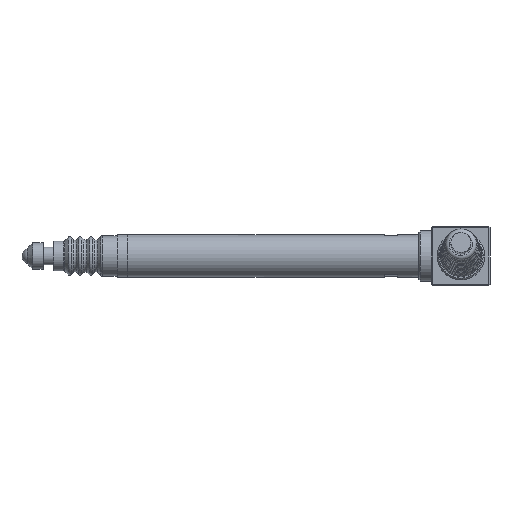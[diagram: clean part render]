
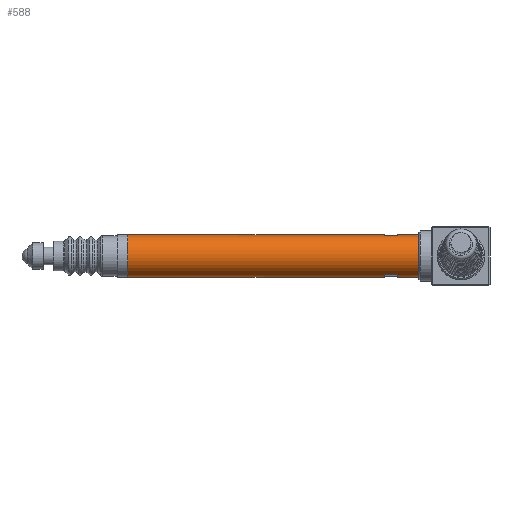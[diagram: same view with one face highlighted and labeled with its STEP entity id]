
A CAD part, front view. The second image highlights one B-rep face of the part: STEP entity #588.
In plain terms, the highlighted cylindrical face has radius 4 mm (diameter 8 mm), a full revolution.
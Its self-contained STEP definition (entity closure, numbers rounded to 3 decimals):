
#588=ADVANCED_FACE('',(#818,#819,#820,#821),#822,.T.);
#818=FACE_OUTER_BOUND('',#1056,.T.);
#819=FACE_OUTER_BOUND('',#1057,.T.);
#820=FACE_BOUND('',#1058,.T.);
#821=FACE_BOUND('',#1059,.T.);
#822=CYLINDRICAL_SURFACE('',#1060,4.0);
#1056=EDGE_LOOP('',(#1542));
#1057=EDGE_LOOP('',(#1543));
#1058=EDGE_LOOP('',(#1544,#1545,#1546,#1547));
#1059=EDGE_LOOP('',(#1548,#1549,#1550,#1551));
#1060=AXIS2_PLACEMENT_3D('',#1552,#1553,#1554);
#1542=ORIENTED_EDGE('',*,*,#1687,.T.);
#1543=ORIENTED_EDGE('',*,*,#1688,.F.);
#1544=ORIENTED_EDGE('',*,*,#1689,.T.);
#1545=ORIENTED_EDGE('',*,*,#1690,.T.);
#1546=ORIENTED_EDGE('',*,*,#1691,.T.);
#1547=ORIENTED_EDGE('',*,*,#1692,.T.);
#1548=ORIENTED_EDGE('',*,*,#1686,.F.);
#1549=ORIENTED_EDGE('',*,*,#1681,.F.);
#1550=ORIENTED_EDGE('',*,*,#1685,.F.);
#1551=ORIENTED_EDGE('',*,*,#1684,.F.);
#1552=CARTESIAN_POINT('',(0.0,28.5,0.0));
#1553=DIRECTION('',(0.0,-1.0,0.0));
#1554=DIRECTION('',(0.0,0.0,-1.0));
#1681=EDGE_CURVE('',#1873,#1874,#1875,.T.);
#1684=EDGE_CURVE('',#1878,#1877,#1880,.T.);
#1685=EDGE_CURVE('',#1877,#1873,#1881,.T.);
#1686=EDGE_CURVE('',#1874,#1878,#1882,.F.);
#1687=EDGE_CURVE('',#1883,#1883,#1884,.T.);
#1688=EDGE_CURVE('',#1885,#1885,#1886,.T.);
#1689=EDGE_CURVE('',#1887,#1888,#1889,.F.);
#1690=EDGE_CURVE('',#1888,#1890,#1891,.T.);
#1691=EDGE_CURVE('',#1890,#1892,#1893,.T.);
#1692=EDGE_CURVE('',#1892,#1887,#1894,.T.);
#1873=VERTEX_POINT('',#2123);
#1874=VERTEX_POINT('',#2124);
#1875=CIRCLE('',#2125,4.0);
#1877=VERTEX_POINT('',#2128);
#1878=VERTEX_POINT('',#2129);
#1880=CIRCLE('',#2132,4.0);
#1881=LINE('',#2133,#2134);
#1882=LINE('',#2135,#2136);
#1883=VERTEX_POINT('',#2137);
#1884=CIRCLE('',#2138,4.0);
#1885=VERTEX_POINT('',#2139);
#1886=CIRCLE('',#2140,4.0);
#1887=VERTEX_POINT('',#2141);
#1888=VERTEX_POINT('',#2142);
#1889=LINE('',#2143,#2144);
#1890=VERTEX_POINT('',#2145);
#1891=CIRCLE('',#2146,4.0);
#1892=VERTEX_POINT('',#2147);
#1893=LINE('',#2148,#2149);
#1894=CIRCLE('',#2150,4.0);
#2123=CARTESIAN_POINT('',(-1.392,20.0,3.75));
#2124=CARTESIAN_POINT('',(1.392,20.0,3.75));
#2125=AXIS2_PLACEMENT_3D('',#2362,#2363,#2364);
#2128=CARTESIAN_POINT('',(-1.392,22.5,3.75));
#2129=CARTESIAN_POINT('',(1.392,22.5,3.75));
#2132=AXIS2_PLACEMENT_3D('',#2367,#2368,#2369);
#2133=CARTESIAN_POINT('',(-1.392,28.5,3.75));
#2134=VECTOR('',#2370,1.0);
#2135=CARTESIAN_POINT('',(1.392,28.5,3.75));
#2136=VECTOR('',#2371,1.0);
#2137=CARTESIAN_POINT('',(0.0,-28.5,4.0));
#2138=AXIS2_PLACEMENT_3D('',#2372,#2373,#2374);
#2139=CARTESIAN_POINT('',(0.0,28.5,4.0));
#2140=AXIS2_PLACEMENT_3D('',#2375,#2376,#2377);
#2141=CARTESIAN_POINT('',(1.392,20.0,-3.75));
#2142=CARTESIAN_POINT('',(1.392,22.5,-3.75));
#2143=CARTESIAN_POINT('',(1.392,28.5,-3.75));
#2144=VECTOR('',#2378,1.0);
#2145=CARTESIAN_POINT('',(-1.392,22.5,-3.75));
#2146=AXIS2_PLACEMENT_3D('',#2379,#2380,#2381);
#2147=CARTESIAN_POINT('',(-1.392,20.0,-3.75));
#2148=CARTESIAN_POINT('',(-1.392,28.5,-3.75));
#2149=VECTOR('',#2382,1.0);
#2150=AXIS2_PLACEMENT_3D('',#2383,#2384,#2385);
#2362=CARTESIAN_POINT('',(0.0,20.0,0.0));
#2363=DIRECTION('',(0.0,1.0,0.0));
#2364=DIRECTION('',(0.0,0.0,1.0));
#2367=CARTESIAN_POINT('',(0.0,22.5,0.0));
#2368=DIRECTION('',(0.0,-1.0,0.0));
#2369=DIRECTION('',(0.0,0.0,-1.0));
#2370=DIRECTION('',(0.0,-1.0,0.0));
#2371=DIRECTION('',(0.0,-1.0,0.0));
#2372=CARTESIAN_POINT('',(0.0,-28.5,0.0));
#2373=DIRECTION('',(0.0,1.0,0.0));
#2374=DIRECTION('',(0.0,0.0,1.0));
#2375=CARTESIAN_POINT('',(0.0,28.5,0.0));
#2376=DIRECTION('',(0.0,1.0,0.0));
#2377=DIRECTION('',(0.0,0.0,1.0));
#2378=DIRECTION('',(0.0,-1.0,0.0));
#2379=CARTESIAN_POINT('',(0.0,22.5,0.0));
#2380=DIRECTION('',(0.0,1.0,0.0));
#2381=DIRECTION('',(0.0,0.0,1.0));
#2382=DIRECTION('',(0.0,-1.0,0.0));
#2383=CARTESIAN_POINT('',(0.0,20.0,0.0));
#2384=DIRECTION('',(0.0,-1.0,0.0));
#2385=DIRECTION('',(0.0,0.0,-1.0));
